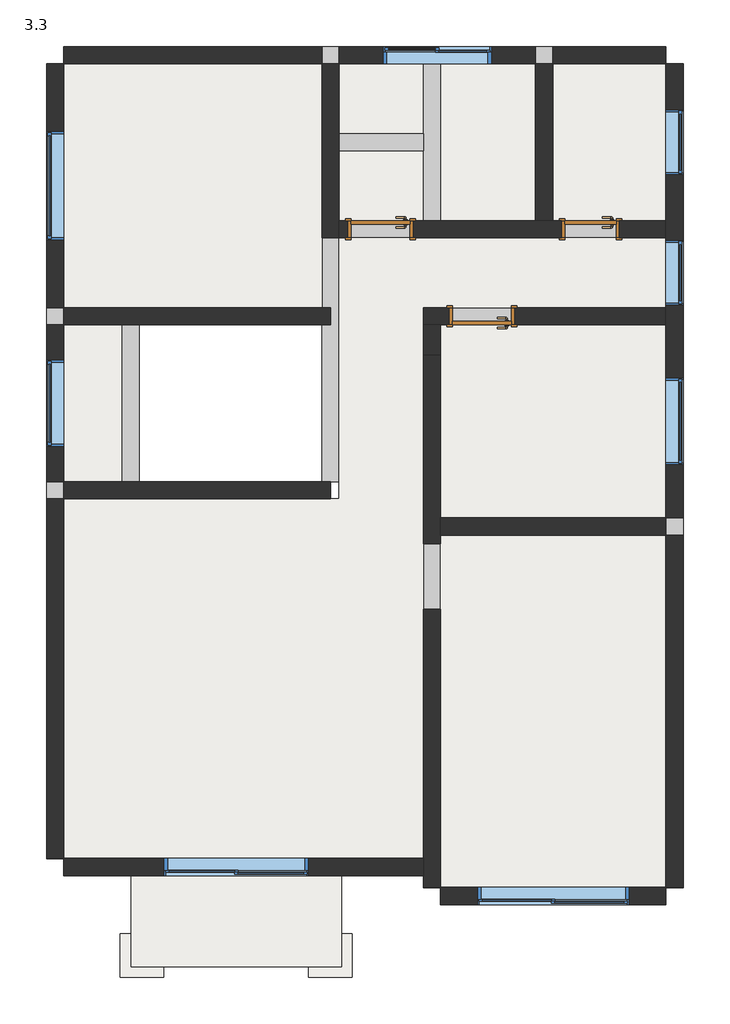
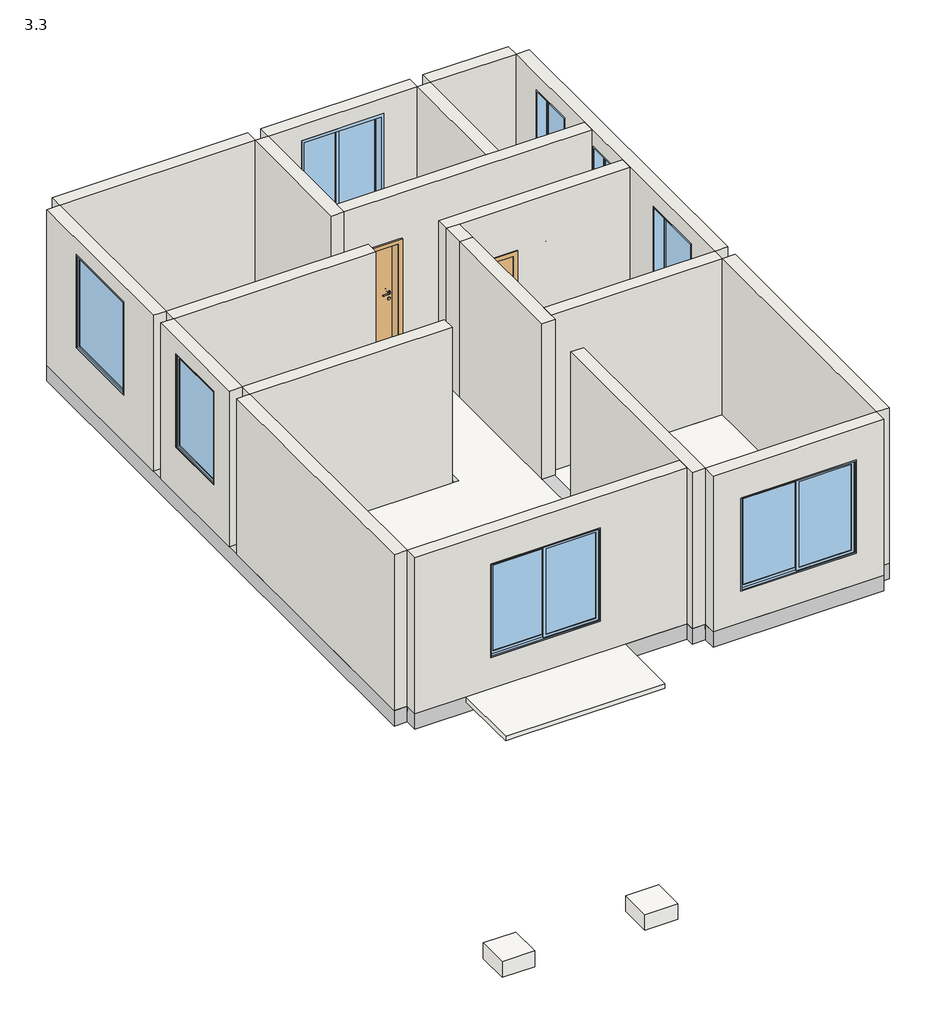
# One storey: 17 beams, 15 walls, 8 windows, 7 slabs, 3 doors.
"""IFC4 building model written with IfcOpenShell, lengths in millimetres."""

from ifc_helpers import new_model, si_unit, frame, origin, place, context, project, spatial, polyline, outline, extrude, faceted_brep, transform, mapped, element, save
from components import door_800x2100_b0ab4c72, door_900_x_2100mm_2716a3da, door_900_x_2100mm_be2d5bec, slab_600x600x300_884aa3a3, window_1200x1800_594b251d, window_1500x1800_ca295862, window_1500x1800_15bb4d9f, window_2000x1800_beba2573, window_2100x1800_b942ef4d, window_900_x_1800mm_95888512

model = new_model("IFC4")

# Units and contexts
model_context = context("Model", 3, world=origin())
ifc_project = project(units=[si_unit("LENGTHUNIT", "METRE", prefix="MILLI")], contexts=[model_context])

# Site, building, storey
site = spatial("IfcSite", under=ifc_project)
building = spatial("IfcBuilding", under=site)
storey = spatial("IfcBuildingStorey", under=building, Name="3.3", Elevation=3300.0)

# Beams
placement = place(None, origin())
element("IfcBeam", 1, ObjectType="混凝土 - 矩形梁 : 240x300", at=placement, inside=storey, context=model_context, shape_type="SweptSolid", body=[
    extrude(outline(polyline([(-17298.0662967, 1425.6780218), (-17058.0662967, 1425.6780218), (-17058.0662967, -9534.3219782), (-17298.0662967, -9534.3219782), (-17298.0662967, 1425.6780218)])), frame((0.0, 0.0, 3000.0), z_axis=(0.0, 0.0, 1.0), x_axis=(1.0, 0.0, 0.0)), (0.0, 0.0, 1.0), 300.0),
])
element("IfcBeam", 2, ObjectType="混凝土 - 矩形梁 : 240x300", at=placement, inside=storey, context=model_context, shape_type="Brep", body=[
    faceted_brep([(-17058.0662967, -9534.3219782, 3300.0), (-17058.0662967, -9774.3219782, 3300.0), (-16128.0662967, -9774.3219782, 3300.0), (-13228.0662967, -9774.3219782, 3300.0), (-11858.0662967, -9774.3219782, 3300.0), (-11858.0662967, -9534.3219782, 3300.0), (-11858.0662967, -9774.3219782, 3000.0), (-17058.0662967, -9774.3219782, 3000.0), (-17058.0662967, -9534.3219782, 3000.0), (-11858.0662967, -9534.3219782, 3000.0)], [[[0, 1, 2, 3, 4, 5]], [[6, 4, 3, 2, 1, 7]], [[7, 8, 9, 6]], [[8, 0, 5, 9]], [[0, 8, 7, 1]], [[5, 4, 6, 9]]]),
])
element("IfcBeam", 3, ObjectType="混凝土 - 矩形梁 : 240x300", at=placement, inside=storey, context=model_context, shape_type="SweptSolid", body=[
    extrude(outline(polyline([(-11858.0662967, -9934.3219782), (-12098.0662967, -9934.3219782), (-12098.0662967, -9774.3219782), (-11858.0662967, -9774.3219782), (-11858.0662967, -9934.3219782)])), frame((0.0, 0.0, 3000.0), z_axis=(0.0, 0.0, 1.0), x_axis=(1.0, 0.0, 0.0)), (0.0, 0.0, 1.0), 300.0),
])
element("IfcBeam", 4, ObjectType="混凝土 - 矩形梁 : 240x300", at=placement, inside=storey, context=model_context, shape_type="SweptSolid", body=[
    extrude(outline(polyline([(-8748.0662967, -9934.3219782), (-8748.0662967, -10174.3219782), (-11858.0662967, -10174.3219782), (-11858.0662967, -9934.3219782), (-8748.0662967, -9934.3219782)])), frame((0.0, 0.0, 3000.0), z_axis=(0.0, 0.0, 1.0), x_axis=(1.0, 0.0, 0.0)), (0.0, 0.0, 1.0), 300.0),
])
element("IfcBeam", 5, ObjectType="混凝土 - 矩形梁 : 240x300", at=placement, inside=storey, context=model_context, shape_type="SweptSolid", body=[
    extrude(outline(polyline([(-8748.0662967, 1425.6780218), (-8508.0662967, 1425.6780218), (-8508.0662967, -9934.3219782), (-8748.0662967, -9934.3219782), (-8748.0662967, 1425.6780218)])), frame((0.0, 0.0, 3000.0), z_axis=(0.0, 0.0, 1.0), x_axis=(1.0, 0.0, 0.0)), (0.0, 0.0, 1.0), 300.0),
])
element("IfcBeam", 6, ObjectType="混凝土 - 矩形梁 : 240x300", at=placement, inside=storey, context=model_context, shape_type="SweptSolid", body=[
    extrude(outline(polyline([(-17058.0662967, 1425.6780218), (-17058.0662967, 1665.6780218), (-8748.0662967, 1665.6780218), (-8748.0662967, 1425.6780218), (-17058.0662967, 1425.6780218)])), frame((0.0, 0.0, 3000.0), z_axis=(0.0, 0.0, 1.0), x_axis=(1.0, 0.0, 0.0)), (0.0, 0.0, 1.0), 300.0),
])
element("IfcBeam", 7, ObjectType="混凝土 - 矩形梁 : 240x300", at=placement, inside=storey, context=model_context, shape_type="SweptSolid", body=[
    extrude(outline(polyline([(-13498.0662967, -4334.3219782), (-13498.0662967, -4574.3219782), (-17058.0662967, -4574.3219782), (-17058.0662967, -4334.3219782), (-13498.0662967, -4334.3219782)])), frame((0.0, 0.0, 3000.0), z_axis=(0.0, 0.0, 1.0), x_axis=(1.0, 0.0, 0.0)), (0.0, 0.0, 1.0), 300.0),
])
element("IfcBeam", 8, ObjectType="混凝土 - 矩形梁 : 240x300", at=placement, inside=storey, context=model_context, shape_type="SweptSolid", body=[
    extrude(outline(polyline([(-13498.0662967, -1934.3219782), (-13498.0662967, -2174.3219782), (-17058.0662967, -2174.3219782), (-17058.0662967, -1934.3219782), (-13498.0662967, -1934.3219782)])), frame((0.0, 0.0, 3000.0), z_axis=(0.0, 0.0, 1.0), x_axis=(1.0, 0.0, 0.0)), (0.0, 0.0, 1.0), 300.0),
])
element("IfcBeam", 9, ObjectType="混凝土 - 矩形梁 : 240x300", at=placement, inside=storey, context=model_context, shape_type="SweptSolid", body=[
    extrude(outline(polyline([(-8748.0662967, -4834.3219782), (-8748.0662967, -5074.3219782), (-11858.0662967, -5074.3219782), (-11858.0662967, -4834.3219782), (-8748.0662967, -4834.3219782)])), frame((0.0, 0.0, 3000.0), z_axis=(0.0, 0.0, 1.0), x_axis=(1.0, 0.0, 0.0)), (0.0, 0.0, 1.0), 300.0),
])
element("IfcBeam", 10, ObjectType="混凝土 - 矩形梁 : 240x300", at=placement, inside=storey, context=model_context, shape_type="SweptSolid", body=[
    extrude(outline(polyline([(-11858.0662967, -2174.3219782), (-11858.0662967, -1934.3219782), (-8748.0662967, -1934.3219782), (-8748.0662967, -2174.3219782), (-11858.0662967, -2174.3219782)])), frame((0.0, 0.0, 3000.0), z_axis=(0.0, 0.0, 1.0), x_axis=(1.0, 0.0, 0.0)), (0.0, 0.0, 1.0), 300.0),
])
element("IfcBeam", 11, ObjectType="混凝土 - 矩形梁 : 240x300", at=placement, inside=storey, context=model_context, shape_type="SweptSolid", body=[
    extrude(outline(polyline([(-13258.0662967, -974.3219782), (-13258.0662967, -734.3219782), (-8748.0662967, -734.3219782), (-8748.0662967, -974.3219782), (-13258.0662967, -974.3219782)])), frame((0.0, 0.0, 3000.0), z_axis=(0.0, 0.0, 1.0), x_axis=(1.0, 0.0, 0.0)), (0.0, 0.0, 1.0), 300.0),
])
element("IfcBeam", 12, ObjectType="混凝土 - 矩形梁 : 240x300", at=placement, inside=storey, context=model_context, shape_type="SweptSolid", body=[
    extrude(outline(polyline([(-13258.0662967, -4334.3219782), (-13498.0662967, -4334.3219782), (-13498.0662967, 1425.6780218), (-13258.0662967, 1425.6780218), (-13258.0662967, -4334.3219782)])), frame((0.0, 0.0, 3000.0), z_axis=(0.0, 0.0, 1.0), x_axis=(1.0, 0.0, 0.0)), (0.0, 0.0, 1.0), 300.0),
])
element("IfcBeam", 13, ObjectType="混凝土 - 矩形梁 : 240x300", at=placement, inside=storey, context=model_context, shape_type="Brep", body=[
    faceted_brep([(-12098.0662967, -734.3219782, 3300.0), (-11858.0662967, -734.3219782, 3300.0), (-11858.0662967, 1425.6780218, 3300.0), (-12098.0662967, 1425.6780218, 3300.0), (-12098.0662967, 465.6780218, 3300.0), (-12098.0662967, 225.6780218, 3300.0), (-12098.0662967, -734.3219782, 3000.0), (-12098.0662967, 1425.6780218, 3000.0), (-12098.0662967, 465.6780218, 3000.0), (-12098.0662967, 225.6780218, 3000.0), (-11858.0662967, -734.3219782, 3000.0), (-11858.0662967, 1425.6780218, 3000.0)], [[[0, 1, 2, 3, 4, 5]], [[6, 0, 5, 4, 3, 7, 8, 9]], [[10, 6, 9, 8, 7, 11]], [[1, 10, 11, 2]], [[1, 0, 6, 10]], [[3, 2, 11, 7]]]),
])
element("IfcBeam", 14, ObjectType="混凝土 - 矩形梁 : 240x300", at=placement, inside=storey, context=model_context, shape_type="SweptSolid", body=[
    extrude(outline(polyline([(-12098.0662967, -2174.3219782), (-11858.0662967, -2174.3219782), (-11858.0662967, -9534.3219782), (-12098.0662967, -9534.3219782), (-12098.0662967, -2174.3219782)])), frame((0.0, 0.0, 3000.0), z_axis=(0.0, 0.0, 1.0), x_axis=(1.0, 0.0, 0.0)), (0.0, 0.0, 1.0), 300.0),
])
element("IfcBeam", 15, ObjectType="混凝土 - 矩形梁 : 240x300", at=placement, inside=storey, context=model_context, shape_type="SweptSolid", body=[
    extrude(outline(polyline([(-10308.0662967, -734.3219782), (-10548.0662967, -734.3219782), (-10548.0662967, 1425.6780218), (-10308.0662967, 1425.6780218), (-10308.0662967, -734.3219782)])), frame((0.0, 0.0, 3000.0), z_axis=(0.0, 0.0, 1.0), x_axis=(1.0, 0.0, 0.0)), (0.0, 0.0, 1.0), 300.0),
])
element("IfcBeam", 16, ObjectType="混凝土 - 矩形梁 : 240x300", at=placement, inside=storey, context=model_context, shape_type="SweptSolid", body=[
    extrude(outline(polyline([(-13258.0662967, 225.6780218), (-13258.0662967, 465.6780218), (-12098.0662967, 465.6780218), (-12098.0662967, 225.6780218), (-13258.0662967, 225.6780218)])), frame((0.0, 0.0, 3000.0), z_axis=(0.0, 0.0, 1.0), x_axis=(1.0, 0.0, 0.0)), (0.0, 0.0, 1.0), 300.0),
])
element("IfcBeam", 17, ObjectType="混凝土 - 矩形梁 : 240x300", at=placement, inside=storey, context=model_context, shape_type="SweptSolid", body=[
    extrude(outline(polyline([(-16018.0662967, -4334.3219782), (-16258.0662967, -4334.3219782), (-16258.0662967, -2174.3219782), (-16018.0662967, -2174.3219782), (-16018.0662967, -4334.3219782)])), frame((0.0, 0.0, 3000.0), z_axis=(0.0, 0.0, 1.0), x_axis=(1.0, 0.0, 0.0)), (0.0, 0.0, 1.0), 300.0),
])

# Doors
door_800x2100_shape = door_800x2100_b0ab4c72(model_context)
element("IfcDoor", 18, ObjectType="单嵌板木门 1 : 800X2100", at=placement, inside=storey, context=model_context, shape_type="MappedRepresentation", body=[
    mapped(door_800x2100_shape, transform((-9788.0662967, -854.3219782, 3300.0), x_axis=(-1.0, 0.0, 0.0), y_axis=(0.0, -1.0, 0.0), z_axis=(0.0, 0.0, 1.0))),
])
door_900_x_2100mm_shape = door_900_x_2100mm_2716a3da(model_context)
element("IfcDoor", 19, ObjectType="单嵌板木门 1 : 900 x 2100mm", at=placement, inside=storey, context=model_context, shape_type="MappedRepresentation", body=[
    mapped(door_900_x_2100mm_shape, transform((-11288.0662967, -2054.3219782, 3300.0), x_axis=(-1.0, 0.0, 0.0), y_axis=(0.0, -1.0, 0.0), z_axis=(0.0, 0.0, 1.0))),
])
door_900_x_2100mm_2_shape = door_900_x_2100mm_be2d5bec(model_context)
element("IfcDoor", 20, ObjectType="单嵌板木门 1 : 900 x 2100mm", at=placement, inside=storey, context=model_context, shape_type="MappedRepresentation", body=[
    mapped(door_900_x_2100mm_2_shape, transform((-12688.0662967, -854.3219782, 3300.0), x_axis=(-1.0, 0.0, 0.0), y_axis=(0.0, -1.0, 0.0), z_axis=(0.0, 0.0, 1.0))),
])

# Slabs
element("IfcSlab", 21, ObjectType="常规 - 100mm", at=placement, inside=storey, context=model_context, shape_type="SweptSolid", body=[
    extrude(outline(polyline([(-13498.0662967, 1425.6780218), (-13498.0662967, -1934.3219782), (-17058.0662967, -1934.3219782), (-17058.0662967, 1425.6780218), (-13498.0662967, 1425.6780218)])), frame((0.0, 0.0, 3200.0), z_axis=(0.0, 0.0, 1.0), x_axis=(1.0, 0.0, 0.0)), (0.0, 0.0, 1.0), 100.0),
    extrude(outline(polyline([(-17058.0662967, -2174.3219782), (-16258.0662967, -2174.3219782), (-16258.0662967, -4334.3219782), (-17058.0662967, -4334.3219782), (-17058.0662967, -2174.3219782)])), frame((0.0, 0.0, 3200.0), z_axis=(0.0, 0.0, 1.0), x_axis=(1.0, 0.0, 0.0)), (0.0, 0.0, 1.0), 100.0),
])
element("IfcSlab", 22, ObjectType="常规 - 100mm", at=placement, inside=storey, context=model_context, shape_type="SweptSolid", body=[
    extrude(outline(polyline([(-8748.0662967, -2174.3219782), (-8748.0662967, -4834.3219782), (-11858.0662967, -4834.3219782), (-11858.0662967, -2174.3219782), (-8748.0662967, -2174.3219782)])), frame((0.0, 0.0, 3170.0), z_axis=(0.0, 0.0, 1.0), x_axis=(1.0, 0.0, 0.0)), (0.0, 0.0, 1.0), 100.0),
    extrude(outline(polyline([(-10548.0662967, 1425.6780218), (-10548.0662967, -734.3219782), (-13258.0662967, -734.3219782), (-13258.0662967, 1425.6780218), (-10548.0662967, 1425.6780218)])), frame((0.0, 0.0, 3170.0), z_axis=(0.0, 0.0, 1.0), x_axis=(1.0, 0.0, 0.0)), (0.0, 0.0, 1.0), 100.0),
    extrude(outline(polyline([(-8748.0662967, 1425.6780218), (-8748.0662967, -734.3219782), (-10308.0662967, -734.3219782), (-10308.0662967, 1425.6780218), (-8748.0662967, 1425.6780218)])), frame((0.0, 0.0, 3170.0), z_axis=(0.0, 0.0, 1.0), x_axis=(1.0, 0.0, 0.0)), (0.0, 0.0, 1.0), 100.0),
])
element("IfcSlab", 23, ObjectType="常规 - 100mm", at=placement, inside=storey, context=model_context, shape_type="SweptSolid", body=[
    extrude(outline(polyline([(-8748.0662967, -5074.3219782), (-8748.0662967, -9934.3219782), (-11858.0662967, -9934.3219782), (-11858.0662967, -5074.3219782), (-8748.0662967, -5074.3219782)])), frame((0.0, 0.0, 3200.0), z_axis=(0.0, 0.0, 1.0), x_axis=(1.0, 0.0, 0.0)), (0.0, 0.0, 1.0), 100.0),
])
element("IfcSlab", 24, ObjectType="常规 - 100mm", at=placement, inside=storey, context=model_context, shape_type="SweptSolid", body=[
    extrude(outline(polyline([(-13258.0662967, -4574.3219782), (-13258.0662967, -974.3219782), (-8748.0662967, -974.3219782), (-8748.0662967, -1934.3219782), (-12098.0662967, -1934.3219782), (-12098.0662967, -9534.3219782), (-17058.0662967, -9534.3219782), (-17058.0662967, -4574.3219782), (-13258.0662967, -4574.3219782)])), frame((0.0, 0.0, 3200.0), z_axis=(0.0, 0.0, 1.0), x_axis=(1.0, 0.0, 0.0)), (0.0, 0.0, 1.0), 100.0),
])
element("IfcSlab", 25, ObjectType="雨棚", at=placement, inside=storey, context=model_context, shape_type="Brep", body=[
    faceted_brep([(-13228.0662967, -9774.3219782, 3210.0), (-13228.0662967, -10724.3219782, 3210.0), (-13228.0662967, -11024.3219782, 3210.0), (-13528.0662967, -11024.3219782, 3210.0), (-15828.0662967, -11024.3219782, 3210.0), (-16128.0662967, -11024.3219782, 3210.0), (-16128.0662967, -10724.3219782, 3210.0), (-16128.0662967, -9774.3219782, 3210.0), (-13228.0662967, -9774.3219782, 3300.0), (-16128.0662967, -9774.3219782, 3300.0), (-16128.0662967, -11024.3219782, 3300.0), (-13228.0662967, -11024.3219782, 3300.0)], [[[0, 1, 2, 3, 4, 5, 6, 7]], [[8, 9, 10, 11]], [[2, 1, 0, 8, 11]], [[5, 4, 3, 2, 11, 10]], [[7, 6, 5, 10, 9]], [[0, 7, 9, 8]]]),
])
slab_600x600x300_shape = slab_600x600x300_884aa3a3(model_context)
element("IfcSlab", 26, ObjectType="独立基础 : 600x600x300", at=placement, inside=storey, context=model_context, shape_type="MappedRepresentation", body=[
    mapped(slab_600x600x300_shape, transform((-15978.0662967, -10874.3219782, -900.0), x_axis=(1.0, 0.0, 0.0), y_axis=(0.0, 1.0, 0.0), z_axis=(0.0, 0.0, 1.0))),
])
element("IfcSlab", 27, ObjectType="独立基础 : 600x600x300", at=placement, inside=storey, context=model_context, shape_type="MappedRepresentation", body=[
    mapped(slab_600x600x300_shape, transform((-13378.0662967, -10874.3219782, -900.0), x_axis=(1.0, 0.0, 0.0), y_axis=(0.0, 1.0, 0.0), z_axis=(0.0, 0.0, 1.0))),
])

# Walls
element("IfcWall", 28, ObjectType="240mm砖墙", at=placement, inside=storey, context=model_context, shape_type="Brep", body=[
    faceted_brep([(-13498.0662967, 1425.6780218, 3300.0), (-13498.0662967, -974.3219782, 3300.0), (-13498.0662967, -974.3219782, 6300.0), (-13498.0662967, 1425.6780218, 6300.0), (-13258.0662967, 1425.6780218, 3300.0), (-13258.0662967, 1425.6780218, 6300.0), (-13258.0662967, -734.3219782, 6300.0), (-13258.0662967, -974.3219782, 6300.0), (-13258.0662967, -974.3219782, 3300.0), (-13258.0662967, -734.3219782, 3300.0)], [[[0, 1, 2, 3]], [[4, 5, 6, 7, 8, 9]], [[1, 0, 4, 9, 8]], [[3, 2, 7, 6, 5]], [[0, 3, 5, 4]], [[2, 1, 8, 7]]]),
])
element("IfcWall", 29, ObjectType="240mm砖墙", at=placement, inside=storey, context=model_context, shape_type="SweptSolid", body=[
    extrude(outline(polyline([(-8748.0662967, 1665.6780218), (-8748.0662967, 1425.6780218), (-10308.0662967, 1425.6780218), (-10308.0662967, 1665.6780218), (-8748.0662967, 1665.6780218)])), frame((0.0, 0.0, 3300.0), z_axis=(0.0, 0.0, 1.0), x_axis=(1.0, 0.0, 0.0)), (0.0, 0.0, 1.0), 3000.0),
    extrude(outline(polyline([(3300.0, -10548.0662967), (6300.0, -10548.0662967), (6300.0, -13258.0662967), (3300.0, -13258.0662967), (3300.0, -10548.0662967)]), holes=[polyline([(6000.0, -11153.0662967), (4200.0, -11153.0662967), (4200.0, -12653.0662967), (6000.0, -12653.0662967), (6000.0, -11153.0662967)])]), frame((0.0, 1425.6780218, 0.0), z_axis=(0.0, 1.0, 0.0), x_axis=(0.0, 0.0, 1.0)), (0.0, 0.0, 1.0), 240.0),
    extrude(outline(polyline([(-13498.0662967, 1665.6780218), (-13498.0662967, 1425.6780218), (-17058.0662967, 1425.6780218), (-17058.0662967, 1665.6780218), (-13498.0662967, 1665.6780218)])), frame((0.0, 0.0, 3300.0), z_axis=(0.0, 0.0, 1.0), x_axis=(1.0, 0.0, 0.0)), (0.0, 0.0, 1.0), 3000.0),
])
element("IfcWall", 30, ObjectType="240mm砖墙", at=placement, inside=storey, context=model_context, shape_type="Brep", body=[
    faceted_brep([(-8748.0662967, -9934.3219782, 3300.0), (-8748.0662967, -9934.3219782, 6300.0), (-8748.0662967, -5074.3219782, 6300.0), (-8748.0662967, -5074.3219782, 3300.0), (-8508.0662967, -9934.3219782, 6300.0), (-8508.0662967, -9934.3219782, 3300.0), (-8508.0662967, -5074.3219782, 3300.0), (-8508.0662967, -5074.3219782, 6300.0)], [[[0, 1, 2, 3]], [[4, 5, 6, 7]], [[5, 0, 3, 6]], [[1, 4, 7, 2]], [[1, 0, 5, 4]], [[3, 2, 7, 6]]]),
    faceted_brep([(-8748.0662967, 1425.6780218, 6300.0), (-8748.0662967, 1425.6780218, 3300.0), (-8748.0662967, -734.3219782, 3300.0), (-8748.0662967, -974.3219782, 3300.0), (-8748.0662967, -1934.3219782, 3300.0), (-8748.0662967, -2174.3219782, 3300.0), (-8748.0662967, -4834.3219782, 3300.0), (-8748.0662967, -4834.3219782, 6300.0), (-8748.0662967, -2174.3219782, 6300.0), (-8748.0662967, -1934.3219782, 6300.0), (-8748.0662967, -974.3219782, 6300.0), (-8748.0662967, -734.3219782, 6300.0), (-8748.0662967, -104.3219782, 6000.0), (-8748.0662967, -104.3219782, 4200.0), (-8748.0662967, 795.6780218, 4200.0), (-8748.0662967, 795.6780218, 6000.0), (-8748.0662967, -1904.3219782, 6000.0), (-8748.0662967, -1904.3219782, 4200.0), (-8748.0662967, -1004.3219782, 4200.0), (-8748.0662967, -1004.3219782, 6000.0), (-8748.0662967, -4104.3219782, 6000.0), (-8748.0662967, -4104.3219782, 4200.0), (-8748.0662967, -2904.3219782, 4200.0), (-8748.0662967, -2904.3219782, 6000.0), (-8508.0662967, 1425.6780218, 3300.0), (-8508.0662967, 1425.6780218, 6300.0), (-8508.0662967, -4834.3219782, 6300.0), (-8508.0662967, -4834.3219782, 3300.0), (-8508.0662967, -104.3219782, 4200.0), (-8508.0662967, -104.3219782, 6000.0), (-8508.0662967, 795.6780218, 6000.0), (-8508.0662967, 795.6780218, 4200.0), (-8508.0662967, -1904.3219782, 4200.0), (-8508.0662967, -1904.3219782, 6000.0), (-8508.0662967, -1004.3219782, 6000.0), (-8508.0662967, -1004.3219782, 4200.0), (-8508.0662967, -4104.3219782, 4200.0), (-8508.0662967, -4104.3219782, 6000.0), (-8508.0662967, -2904.3219782, 6000.0), (-8508.0662967, -2904.3219782, 4200.0)], [[[0, 1, 2, 3, 4, 5, 6, 7, 8, 9, 10, 11], [12, 13, 14, 15], [16, 17, 18, 19], [20, 21, 22, 23]], [[24, 25, 26, 27], [28, 29, 30, 31], [32, 33, 34, 35], [36, 37, 38, 39]], [[1, 24, 27, 6, 5, 4, 3, 2]], [[25, 0, 11, 10, 9, 8, 7, 26]], [[1, 0, 25, 24]], [[7, 6, 27, 26]], [[13, 12, 29, 28]], [[14, 13, 28, 31]], [[15, 14, 31, 30]], [[12, 15, 30, 29]], [[17, 16, 33, 32]], [[18, 17, 32, 35]], [[19, 18, 35, 34]], [[16, 19, 34, 33]], [[21, 20, 37, 36]], [[22, 21, 36, 39]], [[23, 22, 39, 38]], [[20, 23, 38, 37]]]),
])
element("IfcWall", 31, ObjectType="240mm砖墙", at=placement, inside=storey, context=model_context, shape_type="SweptSolid", body=[
    extrude(outline(polyline([(-8748.0662967, -5074.3219782), (-11858.0662967, -5074.3219782), (-11858.0662967, -4834.3219782), (-8748.0662967, -4834.3219782), (-8748.0662967, -5074.3219782)])), frame((0.0, 0.0, 3300.0), z_axis=(0.0, 0.0, 1.0), x_axis=(1.0, 0.0, 0.0)), (0.0, 0.0, 1.0), 3000.0),
])
element("IfcWall", 32, ObjectType="240mm砖墙", at=placement, inside=storey, context=model_context, shape_type="Brep", body=[
    faceted_brep([(-12098.0662967, -1934.3219782, 6300.0), (-8748.0662967, -1934.3219782, 6300.0), (-8748.0662967, -1934.3219782, 3300.0), (-10838.0662967, -1934.3219782, 3300.0), (-10838.0662967, -1934.3219782, 5400.0), (-11738.0662967, -1934.3219782, 5400.0), (-11738.0662967, -1934.3219782, 3300.0), (-12098.0662967, -1934.3219782, 3300.0), (-8748.0662967, -2174.3219782, 6300.0), (-11858.0662967, -2174.3219782, 6300.0), (-12098.0662967, -2174.3219782, 6300.0), (-12098.0662967, -2174.3219782, 3300.0), (-11858.0662967, -2174.3219782, 3300.0), (-11738.0662967, -2174.3219782, 3300.0), (-11738.0662967, -2174.3219782, 5400.0), (-10838.0662967, -2174.3219782, 5400.0), (-10838.0662967, -2174.3219782, 3300.0), (-8748.0662967, -2174.3219782, 3300.0)], [[[0, 1, 2, 3, 4, 5, 6, 7]], [[8, 9, 10, 11, 12, 13, 14, 15, 16, 17]], [[2, 17, 16, 3]], [[11, 7, 6, 13, 12]], [[1, 0, 10, 9, 8]], [[2, 1, 8, 17]], [[0, 7, 11, 10]], [[5, 14, 13, 6]], [[14, 5, 4, 15]], [[15, 4, 3, 16]]]),
])
element("IfcWall", 33, ObjectType="240mm砖墙", at=placement, inside=storey, context=model_context, shape_type="SweptSolid", body=[
    extrude(outline(polyline([(-10548.0662967, -734.3219782), (-10548.0662967, 1425.6780218), (-10308.0662967, 1425.6780218), (-10308.0662967, -734.3219782), (-10548.0662967, -734.3219782)])), frame((0.0, 0.0, 3300.0), z_axis=(0.0, 0.0, 1.0), x_axis=(1.0, 0.0, 0.0)), (0.0, 0.0, 1.0), 3000.0),
])
element("IfcWall", 34, ObjectType="240mm砖墙", at=placement, inside=storey, context=model_context, shape_type="Brep", body=[
    faceted_brep([(-8748.0662967, -974.3219782, 6300.0), (-13258.0662967, -974.3219782, 6300.0), (-13258.0662967, -974.3219782, 3300.0), (-13138.0662967, -974.3219782, 3300.0), (-13138.0662967, -974.3219782, 5400.0), (-12238.0662967, -974.3219782, 5400.0), (-12238.0662967, -974.3219782, 3300.0), (-10188.0662967, -974.3219782, 3300.0), (-10188.0662967, -974.3219782, 5400.0), (-9388.0662967, -974.3219782, 5400.0), (-9388.0662967, -974.3219782, 3300.0), (-8748.0662967, -974.3219782, 3300.0), (-13258.0662967, -734.3219782, 6300.0), (-10548.0662967, -734.3219782, 6300.0), (-10308.0662967, -734.3219782, 6300.0), (-8748.0662967, -734.3219782, 6300.0), (-8748.0662967, -734.3219782, 3300.0), (-9388.0662967, -734.3219782, 3300.0), (-9388.0662967, -734.3219782, 5400.0), (-10188.0662967, -734.3219782, 5400.0), (-10188.0662967, -734.3219782, 3300.0), (-10308.0662967, -734.3219782, 3300.0), (-10548.0662967, -734.3219782, 3300.0), (-12238.0662967, -734.3219782, 3300.0), (-12238.0662967, -734.3219782, 5400.0), (-13138.0662967, -734.3219782, 5400.0), (-13138.0662967, -734.3219782, 3300.0), (-13258.0662967, -734.3219782, 3300.0)], [[[0, 1, 2, 3, 4, 5, 6, 7, 8, 9, 10, 11]], [[12, 13, 14, 15, 16, 17, 18, 19, 20, 21, 22, 23, 24, 25, 26, 27]], [[16, 11, 10, 17]], [[2, 27, 26, 3]], [[6, 23, 22, 21, 20, 7]], [[1, 0, 15, 14, 13, 12]], [[0, 11, 16, 15]], [[2, 1, 12, 27]], [[25, 4, 3, 26]], [[4, 25, 24, 5]], [[5, 24, 23, 6]], [[19, 8, 7, 20]], [[8, 19, 18, 9]], [[9, 18, 17, 10]]]),
])
element("IfcWall", 35, ObjectType="240mm砖墙", at=placement, inside=storey, context=model_context, shape_type="SweptSolid", body=[
    extrude(outline(polyline([(-13378.0662967, -2174.3219782), (-17058.0662967, -2174.3219782), (-17058.0662967, -1934.3219782), (-13378.0662967, -1934.3219782), (-13378.0662967, -2174.3219782)])), frame((0.0, 0.0, 3300.0), z_axis=(0.0, 0.0, 1.0), x_axis=(1.0, 0.0, 0.0)), (0.0, 0.0, 1.0), 3000.0),
])
element("IfcWall", 36, ObjectType="240mm砖墙", at=placement, inside=storey, context=model_context, shape_type="SweptSolid", body=[
    extrude(outline(polyline([(-13378.0662967, -4574.3219782), (-17058.0662967, -4574.3219782), (-17058.0662967, -4334.3219782), (-13378.0662967, -4334.3219782), (-13378.0662967, -4574.3219782)])), frame((0.0, 0.0, 3300.0), z_axis=(0.0, 0.0, 1.0), x_axis=(1.0, 0.0, 0.0)), (0.0, 0.0, 1.0), 3000.0),
])
element("IfcWall", 37, ObjectType="240mm砖墙", at=placement, inside=storey, context=model_context, shape_type="SweptSolid", body=[
    extrude(outline(polyline([(-4334.3219782, 3300.0), (-4334.3219782, 6300.0), (-2174.3219782, 6300.0), (-2174.3219782, 3300.0), (-4334.3219782, 3300.0)]), holes=[polyline([(-2654.3219782, 4200.0), (-2654.3219782, 6000.0), (-3854.3219782, 6000.0), (-3854.3219782, 4200.0), (-2654.3219782, 4200.0)])]), frame((-17298.0662967, 0.0, 0.0), z_axis=(1.0, 0.0, 0.0), x_axis=(0.0, 1.0, 0.0)), (0.0, 0.0, 1.0), 240.0),
    extrude(outline(polyline([(-17298.0662967, -4574.3219782), (-17058.0662967, -4574.3219782), (-17058.0662967, -9534.3219782), (-17298.0662967, -9534.3219782), (-17298.0662967, -4574.3219782)])), frame((0.0, 0.0, 3300.0), z_axis=(0.0, 0.0, 1.0), x_axis=(1.0, 0.0, 0.0)), (0.0, 0.0, 1.0), 3000.0),
    extrude(outline(polyline([(1425.6780218, 6300.0), (1425.6780218, 3300.0), (-1934.3219782, 3300.0), (-1934.3219782, 6300.0), (1425.6780218, 6300.0)]), holes=[polyline([(495.6780218, 4200.0), (495.6780218, 6000.0), (-1004.3219782, 6000.0), (-1004.3219782, 4200.0), (495.6780218, 4200.0)])]), frame((-17298.0662967, 0.0, 0.0), z_axis=(1.0, 0.0, 0.0), x_axis=(0.0, 1.0, 0.0)), (0.0, 0.0, 1.0), 240.0),
])
element("IfcWall", 38, ObjectType="240mm砖墙", at=placement, inside=storey, context=model_context, shape_type="SweptSolid", body=[
    extrude(outline(polyline([(3300.0, -17058.0662967), (3300.0, -12098.0662967), (6300.0, -12098.0662967), (6300.0, -17058.0662967), (3300.0, -17058.0662967)]), holes=[polyline([(5700.0, -15678.0662967), (5700.0, -13678.0662967), (3900.0, -13678.0662967), (3900.0, -15678.0662967), (5700.0, -15678.0662967)])]), frame((0.0, -9774.3219782, 0.0), z_axis=(0.0, 1.0, 0.0), x_axis=(0.0, 0.0, 1.0)), (0.0, 0.0, 1.0), 240.0),
])
element("IfcWall", 39, ObjectType="240mm砖墙", at=placement, inside=storey, context=model_context, shape_type="Brep", body=[
    faceted_brep([(-12098.0662967, -2594.3219782, 3300.0), (-12098.0662967, -5194.3219782, 3300.0), (-12098.0662967, -5194.3219782, 6300.0), (-12098.0662967, -2594.3219782, 6300.0), (-11858.0662967, -2594.3219782, 3300.0), (-11858.0662967, -2594.3219782, 6300.0), (-11858.0662967, -4834.3219782, 6300.0), (-11858.0662967, -5074.3219782, 6300.0), (-11858.0662967, -5194.3219782, 6300.0), (-11858.0662967, -5194.3219782, 3300.0), (-11858.0662967, -5074.3219782, 3300.0), (-11858.0662967, -4834.3219782, 3300.0)], [[[0, 1, 2, 3]], [[4, 5, 6, 7, 8, 9, 10, 11]], [[1, 0, 4, 11, 10, 9]], [[2, 1, 9, 8]], [[3, 2, 8, 7, 6, 5]], [[0, 3, 5, 4]]]),
])
element("IfcWall", 40, ObjectType="240mm砖墙", at=placement, inside=storey, context=model_context, shape_type="SweptSolid", body=[
    extrude(outline(polyline([(6300.0, -11858.0662967), (3300.0, -11858.0662967), (3300.0, -8748.0662967), (6300.0, -8748.0662967), (6300.0, -11858.0662967)]), holes=[polyline([(3900.0, -11353.0662967), (5700.0, -11353.0662967), (5700.0, -9253.0662967), (3900.0, -9253.0662967), (3900.0, -11353.0662967)])]), frame((0.0, -10174.3219782, 0.0), z_axis=(0.0, 1.0, 0.0), x_axis=(0.0, 0.0, 1.0)), (0.0, 0.0, 1.0), 240.0),
])
element("IfcWall", 41, ObjectType="240mm砖墙", at=placement, inside=storey, context=model_context, shape_type="SweptSolid", body=[
    extrude(outline(polyline([(-11858.0662967, -2174.3219782), (-11858.0662967, -2594.3219782), (-12098.0662967, -2594.3219782), (-12098.0662967, -2174.3219782), (-11858.0662967, -2174.3219782)])), frame((0.0, 0.0, 3300.0), z_axis=(0.0, 0.0, 1.0), x_axis=(1.0, 0.0, 0.0)), (0.0, 0.0, 1.0), 3000.0),
])
element("IfcWall", 42, ObjectType="240mm砖墙", at=placement, inside=storey, context=model_context, shape_type="Brep", body=[
    faceted_brep([(-12098.0662967, -6094.3219782, 6300.0), (-12098.0662967, -6094.3219782, 3300.0), (-12098.0662967, -9534.3219782, 3300.0), (-12098.0662967, -9774.3219782, 3300.0), (-12098.0662967, -9934.3219782, 3300.0), (-12098.0662967, -9934.3219782, 6300.0), (-12098.0662967, -9774.3219782, 6300.0), (-12098.0662967, -9534.3219782, 6300.0), (-11858.0662967, -6094.3219782, 3300.0), (-11858.0662967, -6094.3219782, 6300.0), (-11858.0662967, -9934.3219782, 6300.0), (-11858.0662967, -9934.3219782, 3300.0)], [[[0, 1, 2, 3, 4, 5, 6, 7]], [[8, 9, 10, 11]], [[1, 8, 11, 4, 3, 2]], [[9, 0, 7, 6, 5, 10]], [[1, 0, 9, 8]], [[5, 4, 11, 10]]]),
])

# Windows
window_1200x1800_shape = window_1200x1800_594b251d(model_context)
element("IfcWindow", 43, ObjectType="固定窗 : 1200x1800", at=placement, inside=storey, context=model_context, shape_type="MappedRepresentation", body=[
    mapped(window_1200x1800_shape, transform((-17178.0662967, -3216.2219782, 3900.0), x_axis=(0.0, 1.0, 0.0), y_axis=(-1.0, 0.0, 0.0), z_axis=(0.0, 0.0, 1.0))),
])
element("IfcWindow", 44, ObjectType="固定窗 : 1200x1800", at=placement, inside=storey, context=model_context, shape_type="MappedRepresentation", body=[
    mapped(window_1200x1800_shape, transform((-8628.0662967, -3542.4219782, 3900.0), x_axis=(0.0, -1.0, 0.0), y_axis=(1.0, 0.0, 0.0), z_axis=(0.0, 0.0, 1.0))),
])
window_1500x1800_shape = window_1500x1800_ca295862(model_context)
element("IfcWindow", 45, ObjectType="推拉窗6 : 1500X1800", at=placement, inside=storey, context=model_context, shape_type="MappedRepresentation", body=[
    mapped(window_1500x1800_shape, transform((-11912.5912967, 1612.5514593, 3600.0), x_axis=(1.0, 0.0, 0.0), y_axis=(0.0, 1.0, 0.0), z_axis=(0.0, 0.0, 1.0))),
])
window_1500x1800_2_shape = window_1500x1800_15bb4d9f(model_context)
element("IfcWindow", 46, ObjectType="固定窗 : 1500x1800", at=placement, inside=storey, context=model_context, shape_type="MappedRepresentation", body=[
    mapped(window_1500x1800_2_shape, transform((-17178.0662967, -216.2219782, 3900.0), x_axis=(0.0, 1.0, 0.0), y_axis=(-1.0, 0.0, 0.0), z_axis=(0.0, 0.0, 1.0))),
])
window_2000x1800_shape = window_2000x1800_beba2573(model_context)
element("IfcWindow", 47, ObjectType="推拉窗6 : 2000X1800", at=placement, inside=storey, context=model_context, shape_type="MappedRepresentation", body=[
    mapped(window_2000x1800_shape, transform((-14668.5412967, -9721.1954157, 3300.0), x_axis=(-1.0, 0.0, 0.0), y_axis=(0.0, -1.0, 0.0), z_axis=(0.0, 0.0, 1.0))),
])
window_2100x1800_shape = window_2100x1800_b942ef4d(model_context)
element("IfcWindow", 48, ObjectType="推拉窗6 : 2100x1800", at=placement, inside=storey, context=model_context, shape_type="MappedRepresentation", body=[
    mapped(window_2100x1800_shape, transform((-10293.5412967, -10121.1954157, 3300.0), x_axis=(-1.0, 0.0, 0.0), y_axis=(0.0, -1.0, 0.0), z_axis=(0.0, 0.0, 1.0))),
])
window_900_x_1800mm_shape = window_900_x_1800mm_95888512(model_context)
element("IfcWindow", 49, ObjectType="固定窗 : 900 x 1800mm", at=placement, inside=storey, context=model_context, shape_type="MappedRepresentation", body=[
    mapped(window_900_x_1800mm_shape, transform((-8628.0662967, -1492.4219782, 3900.0), x_axis=(0.0, -1.0, 0.0), y_axis=(1.0, 0.0, 0.0), z_axis=(0.0, 0.0, 1.0))),
])
element("IfcWindow", 50, ObjectType="固定窗 : 900 x 1800mm", at=placement, inside=storey, context=model_context, shape_type="MappedRepresentation", body=[
    mapped(window_900_x_1800mm_shape, transform((-8628.0662967, 307.5780218, 3900.0), x_axis=(0.0, -1.0, 0.0), y_axis=(1.0, 0.0, 0.0), z_axis=(0.0, 0.0, 1.0))),
])

save(model, "model.ifc")
